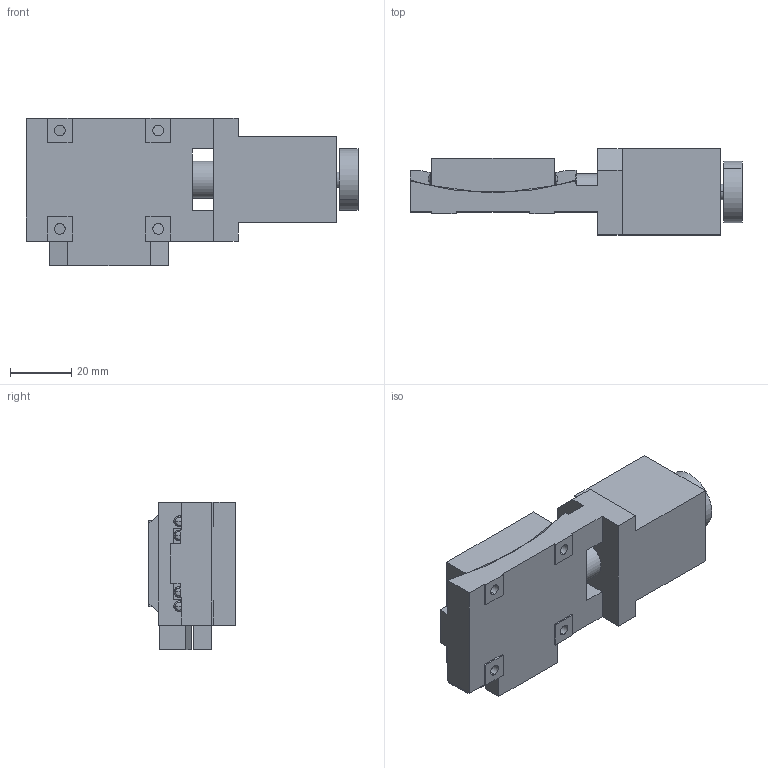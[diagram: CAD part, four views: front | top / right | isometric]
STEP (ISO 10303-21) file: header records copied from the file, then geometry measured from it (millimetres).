
FILE_DESCRIPTION (( 'STEP AP203' ), '1' );
FILE_NAME ('ATS-C410B-HM.STEP', '2015-03-05T01:09:16', ( '' ), ( '' ), 'SwSTEP 2.0', 'SolidWorks 2011', '' );
FILE_SCHEMA (( 'CONFIG_CONTROL_DESIGN' ));
Length unit declared in the file: millimetre
Products named in the file (3): ATS-C410B-HM-1; ATS-C410B-HM; ATS-C410B-HM-2
Assembly tree (2 placements, depth 2):
  ATS-C410B-HM
    ATS-C410B-HM-2
    ATS-C410B-HM-1
Bounding box: 108 x 28 x 48 mm (x, y, z)
Volume: 74983.7 mm3; surface area: 21538.3 mm2
Topology: 2 solids, 2 shells, 186 faces, 472 edges, 294 vertices
Faces by surface type: plane 80, cylinder 54, torus 32, cone 20
Entity records: 6183 total; most frequent: CARTESIAN_POINT 1345, DIRECTION 992, ORIENTED_EDGE 912, EDGE_CURVE 456, AXIS2_PLACEMENT_3D 369, VERTEX_POINT 294, LINE 254, VECTOR 254
